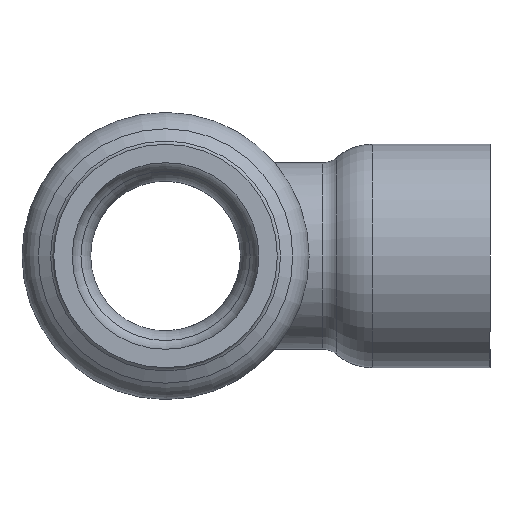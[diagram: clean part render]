
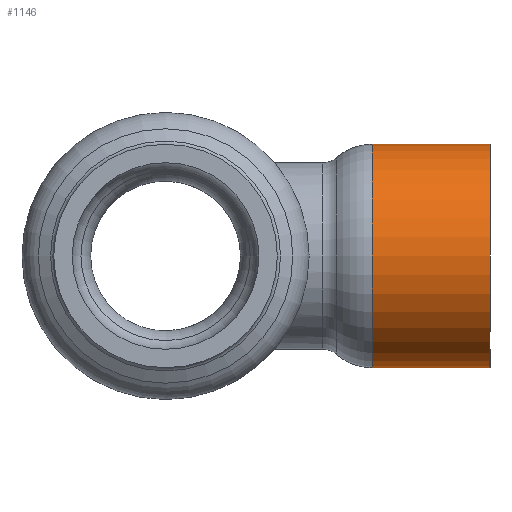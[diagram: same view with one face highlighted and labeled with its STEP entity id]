
A CAD part, left-side view. The second image highlights one B-rep face of the part: STEP entity #1146.
In plain terms, the highlighted cylindrical face has radius 12.776 mm (diameter 25.552 mm), a full revolution.
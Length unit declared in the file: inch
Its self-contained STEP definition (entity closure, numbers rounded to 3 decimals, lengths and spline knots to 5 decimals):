
#84=FACE_OUTER_BOUND('',#133,.T.);
#133=EDGE_LOOP('',(#720,#721,#722,#723,#724,#725));
#186=CIRCLE('',#1222,0.503);
#187=CIRCLE('',#1223,0.503);
#188=CIRCLE('',#1224,0.503);
#189=CIRCLE('',#1225,0.503);
#337=LINE('',#1927,#361);
#361=VECTOR('',#1459,0.503);
#398=VERTEX_POINT('',#1922);
#399=VERTEX_POINT('',#1923);
#400=VERTEX_POINT('',#1926);
#401=VERTEX_POINT('',#1928);
#535=EDGE_CURVE('',#398,#399,#186,.T.);
#536=EDGE_CURVE('',#399,#398,#187,.T.);
#537=EDGE_CURVE('',#399,#400,#337,.T.);
#538=EDGE_CURVE('',#400,#401,#188,.T.);
#539=EDGE_CURVE('',#401,#400,#189,.T.);
#720=ORIENTED_EDGE('',*,*,#535,.F.);
#721=ORIENTED_EDGE('',*,*,#536,.F.);
#722=ORIENTED_EDGE('',*,*,#537,.T.);
#723=ORIENTED_EDGE('',*,*,#538,.T.);
#724=ORIENTED_EDGE('',*,*,#539,.T.);
#725=ORIENTED_EDGE('',*,*,#537,.F.);
#1081=CYLINDRICAL_SURFACE('',#1221,0.503);
#1146=ADVANCED_FACE('',(#84),#1081,.T.);
#1221=AXIS2_PLACEMENT_3D('',#1921,#1453,#1454);
#1222=AXIS2_PLACEMENT_3D('',#1924,#1455,#1456);
#1223=AXIS2_PLACEMENT_3D('',#1925,#1457,#1458);
#1224=AXIS2_PLACEMENT_3D('',#1929,#1460,#1461);
#1225=AXIS2_PLACEMENT_3D('',#1930,#1462,#1463);
#1453=DIRECTION('center_axis',(0.,1.,0.));
#1454=DIRECTION('ref_axis',(0.,0.,1.));
#1455=DIRECTION('center_axis',(0.,1.,0.));
#1456=DIRECTION('ref_axis',(0.,0.,1.));
#1457=DIRECTION('center_axis',(0.,1.,0.));
#1458=DIRECTION('ref_axis',(0.,0.,1.));
#1459=DIRECTION('',(0.,-1.,0.));
#1460=DIRECTION('center_axis',(0.,1.,0.));
#1461=DIRECTION('ref_axis',(0.,0.,1.));
#1462=DIRECTION('center_axis',(0.,1.,0.));
#1463=DIRECTION('ref_axis',(0.,0.,1.));
#1921=CARTESIAN_POINT('Origin',(0.,-1.195,0.));
#1922=CARTESIAN_POINT('',(0.,-0.93,0.503));
#1923=CARTESIAN_POINT('',(0.,-0.93,-0.503));
#1924=CARTESIAN_POINT('Origin',(0.,-0.93,0.));
#1925=CARTESIAN_POINT('Origin',(0.,-0.93,0.));
#1926=CARTESIAN_POINT('',(0.,-1.46,-0.503));
#1927=CARTESIAN_POINT('',(0.,-1.195,-0.503));
#1928=CARTESIAN_POINT('',(0.,-1.46,0.503));
#1929=CARTESIAN_POINT('Origin',(0.,-1.46,0.));
#1930=CARTESIAN_POINT('Origin',(0.,-1.46,0.));
